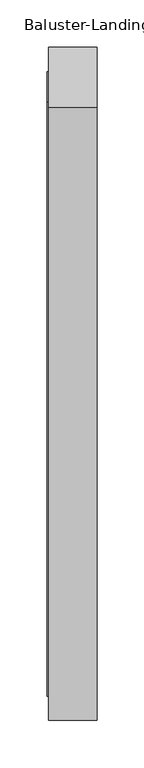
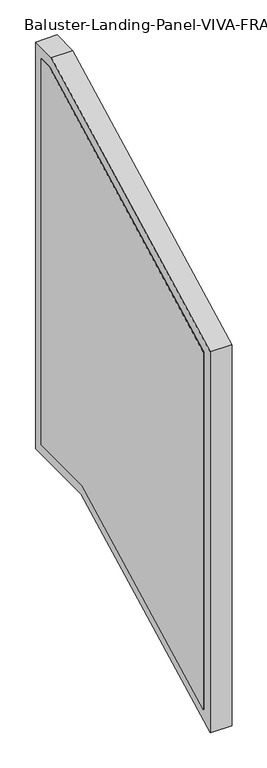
"""IFC4 building model written with IfcOpenShell, lengths in millimetres: railing geometry, Baluster-Landing-Panel-VIVA-FRAME-Lower : Standard_PP01."""

from ifc_helpers import new_model, si_unit, frame, origin, place, context, project, spatial, polyline, outline, extrude, faceted_brep, source, transform, mapped, element, save


def baluster_landing_panel_viva_frame_lower_standard_pp01_66edf5f7(model_context):
    return source(origin(), model_context, "Body", "SolidModel", [
        extrude(outline(polyline([(517.599583, -48.5312648), (25.4, -304.75415), (25.4, 580.1931965), (651.5475888, 906.145), (683.6110088, 906.145), (683.6110088, -48.5312648), (517.599583, -48.5312648)])), frame((14.2584857, 0.0, 0.0), z_axis=(1.0, 0.0, 0.0), x_axis=(0.0, 1.0, 0.0)), (0.0, 0.0, 1.0), 2.9972),
        faceted_brep([(35.6827057, 5.9329371, -336.8348769), (35.6827057, 5.9329371, 592.0061003), (66.4929057, 5.9329371, 592.0061003), (66.4929057, 5.9329371, -336.8348769), (15.6929057, 50.7385371, -262.9975333), (15.6929057, 50.7385371, 564.8173947), (35.6827057, 50.7385371, 564.8173947), (35.6827057, 50.7385371, -262.9975333), (66.4929057, -0.0614629, -346.7133423), (66.4929057, -0.0614629, 595.6435915), (15.6929057, -0.0614629, 595.6435915), (15.6929057, -0.0614629, -346.7133423), (35.6827057, 646.7840288, 925.6120629), (66.4929057, 646.7840288, 925.6120629), (15.6929057, 657.7478894, 880.8064629), (35.6827057, 657.7478894, 880.8064629), (66.4929057, 645.3172085, 931.6064629), (15.6929057, 645.3172085, 931.6064629), (35.6827057, 703.0780717, 925.6120629), (66.4929057, 703.0780717, 925.6120629), (15.6929057, 658.2724717, 880.8064629), (35.6827057, 658.2724717, 880.8064629), (66.4929057, 709.0724717, 931.6064629), (15.6929057, 709.0724717, 931.6064629), (35.6827057, 703.0780717, -67.9983278), (66.4929057, 703.0780717, -67.9983278), (15.6929057, 658.2724717, -23.1927278), (35.6827057, 658.2724717, -23.1927278), (66.4929057, 709.0724717, -73.9927278), (15.6929057, 709.0724717, -73.9927278), (35.6827057, 522.363143, -67.9983278), (66.4929057, 522.363143, -67.9983278), (15.6929057, 511.3992824, -23.1927278), (35.6827057, 511.3992824, -23.1927278), (66.4929057, 523.8299633, -73.9927278), (15.6929057, 523.8299633, -73.9927278)], [[[0, 1, 2, 3]], [[4, 5, 6, 7]], [[8, 9, 10, 11]], [[1, 12, 13, 2]], [[5, 14, 15, 6]], [[9, 16, 17, 10]], [[12, 18, 19, 13]], [[14, 20, 21, 15]], [[16, 22, 23, 17]], [[18, 24, 25, 19]], [[20, 26, 27, 21]], [[22, 28, 29, 23]], [[24, 30, 31, 25]], [[26, 32, 33, 27]], [[28, 34, 35, 29]], [[22, 16, 9, 8, 34, 28], [3, 2, 13, 19, 25, 31]], [[30, 0, 3, 31]], [[18, 12, 1, 0, 30, 24], [7, 6, 15, 21, 27, 33]], [[32, 4, 7, 33]], [[11, 10, 17, 23, 29, 35], [20, 14, 5, 4, 32, 26]], [[34, 8, 11, 35]]]),
    ])


if __name__ == "__main__":
    model = new_model("IFC4")
    model_context = context("Model", 3, world=origin())
    ifc_project = project(units=[si_unit("LENGTHUNIT", "METRE", prefix="MILLI")], contexts=[model_context])
    site = spatial("IfcSite", under=ifc_project)
    building = spatial("IfcBuilding", under=site)
    placement = place(None, origin())
    baluster_landing_panel_viva_frame_lower_standard_pp01_shape = baluster_landing_panel_viva_frame_lower_standard_pp01_66edf5f7(model_context)
    element("IfcRailing", 1, ObjectType="Baluster-Landing-Panel-VIVA-FRAME-Lower : Standard_PP01", at=placement, inside=building, context=model_context, shape_type="MappedRepresentation", body=[
        mapped(baluster_landing_panel_viva_frame_lower_standard_pp01_shape, transform((0.0, 0.0, 0.0), x_axis=(1.0, 0.0, 0.0), y_axis=(0.0, 1.0, 0.0), z_axis=(0.0, 0.0, 1.0))),
    ])
    save(model, "model.ifc")
